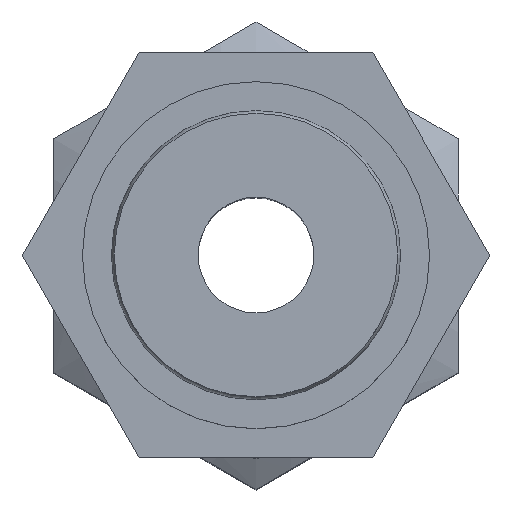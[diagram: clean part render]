
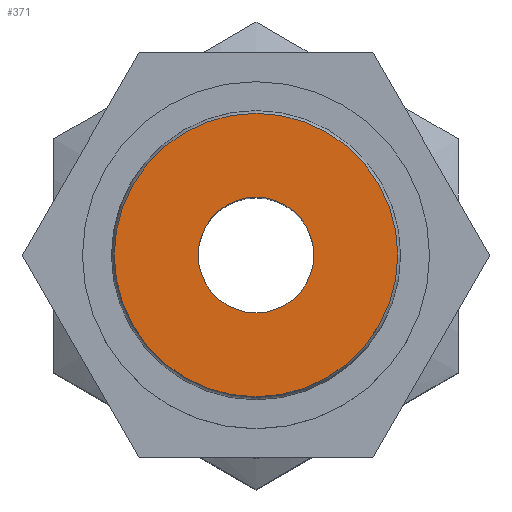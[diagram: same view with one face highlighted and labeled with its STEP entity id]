
A CAD part, top view. The second image highlights one B-rep face of the part: STEP entity #371.
In plain terms, the highlighted planar face has unit normal (0, 0, 1).
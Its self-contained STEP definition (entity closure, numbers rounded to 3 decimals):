
#84=CARTESIAN_POINT('',(2.0,0.0,24.));
#85=VERTEX_POINT('',#84);
#86=CARTESIAN_POINT('',(0.0,0.0,24.));
#87=DIRECTION('',(0.0,0.0,-1.0));
#88=DIRECTION('',(1.0,0.0,0.0));
#89=AXIS2_PLACEMENT_3D('',#86,#87,#88);
#90=CIRCLE('',#89,2.0);
#91=EDGE_CURVE('',#85,#85,#90,.T.);
#352=CARTESIAN_POINT('',(0.0,2.45,24.));
#353=DIRECTION('',(0.0,0.0,1.0));
#354=DIRECTION('',(1.0,0.0,0.0));
#355=AXIS2_PLACEMENT_3D('',#352,#353,#354);
#356=PLANE('',#355);
#357=CARTESIAN_POINT('',(0.0,4.9,24.));
#358=VERTEX_POINT('',#357);
#359=CARTESIAN_POINT('',(0.0,0.0,24.));
#360=DIRECTION('',(0.0,0.0,-1.0));
#361=DIRECTION('',(0.0,1.0,0.0));
#362=AXIS2_PLACEMENT_3D('',#359,#360,#361);
#363=CIRCLE('',#362,4.9);
#364=EDGE_CURVE('',#358,#358,#363,.T.);
#365=ORIENTED_EDGE('',*,*,#364,.F.);
#366=EDGE_LOOP('',(#365));
#367=FACE_OUTER_BOUND('',#366,.T.);
#368=ORIENTED_EDGE('',*,*,#91,.T.);
#369=EDGE_LOOP('',(#368));
#370=FACE_BOUND('',#369,.T.);
#371=ADVANCED_FACE('',(#367,#370),#356,.T.);
